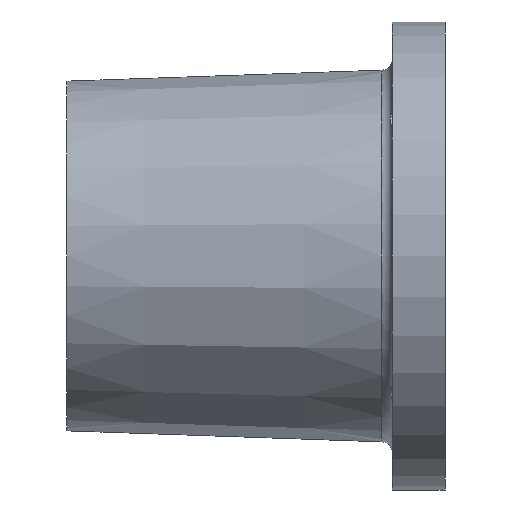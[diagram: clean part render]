
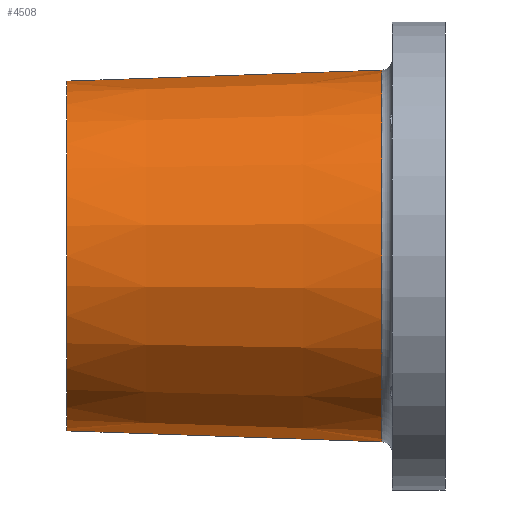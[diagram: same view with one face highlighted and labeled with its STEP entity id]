
A CAD part, left-side view. The second image highlights one B-rep face of the part: STEP entity #4508.
In plain terms, the highlighted conical face has half-angle 2 degrees and reference radius 71.141 mm.
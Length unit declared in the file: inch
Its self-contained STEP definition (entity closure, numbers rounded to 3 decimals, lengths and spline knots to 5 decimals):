
#111 = LINE ( 'NONE', #6007, #4490 ) ;
#229 = DIRECTION ( 'NONE',  ( 0., 0., -1. ) ) ;
#238 = ORIENTED_EDGE ( 'NONE', *, *, #6445, .T. ) ;
#850 = CARTESIAN_POINT ( 'NONE',  ( 0., 1.01772, 0. ) ) ;
#1435 = DIRECTION ( 'NONE',  ( 0., -1., 0. ) ) ;
#1443 = DIRECTION ( 'NONE',  ( 0., 0., -1. ) ) ;
#1678 = VECTOR ( 'NONE', #4334, 39.37008 ) ;
#1868 = CARTESIAN_POINT ( 'NONE',  ( 0., 6.06, 2.80185 ) ) ;
#2106 = DIRECTION ( 'NONE',  ( 0., -0.999, -0.035 ) ) ;
#2135 = CARTESIAN_POINT ( 'NONE',  ( 0., 6.06, 0. ) ) ;
#2413 = CARTESIAN_POINT ( 'NONE',  ( 0., 6.06, -2.80185 ) ) ;
#2464 = VERTEX_POINT ( 'NONE', #5310 ) ;
#2612 = AXIS2_PLACEMENT_3D ( 'NONE', #2135, #6086, #2702 ) ;
#2702 = DIRECTION ( 'NONE',  ( 0., 0., 1. ) ) ;
#2963 = VERTEX_POINT ( 'NONE', #2413 ) ;
#3037 = AXIS2_PLACEMENT_3D ( 'NONE', #850, #4811, #1443 ) ;
#3476 = AXIS2_PLACEMENT_3D ( 'NONE', #4245, #1435, #229 ) ;
#3769 = CARTESIAN_POINT ( 'NONE',  ( 0., 6.089, 2.80084 ) ) ;
#4020 = VERTEX_POINT ( 'NONE', #1868 ) ;
#4141 = CONICAL_SURFACE ( 'NONE', #3476, 2.80084, 0.035 ) ;
#4245 = CARTESIAN_POINT ( 'NONE',  ( 0., 6.089, 0. ) ) ;
#4334 = DIRECTION ( 'NONE',  ( 0., -0.999, 0.035 ) ) ;
#4490 = VECTOR ( 'NONE', #2106, 39.37008 ) ;
#4508 = ADVANCED_FACE ( 'NONE', ( #6033 ), #4141, .T. ) ;
#4811 = DIRECTION ( 'NONE',  ( 0., 1., 0. ) ) ;
#4839 = LINE ( 'NONE', #3769, #1678 ) ;
#4895 = VERTEX_POINT ( 'NONE', #4909 ) ;
#4909 = CARTESIAN_POINT ( 'NONE',  ( 0., 1.01772, 2.97793 ) ) ;
#5310 = CARTESIAN_POINT ( 'NONE',  ( 0., 1.01772, -2.97793 ) ) ;
#5336 = ORIENTED_EDGE ( 'NONE', *, *, #6423, .F. ) ;
#5341 = EDGE_LOOP ( 'NONE', ( #5336, #6272, #238, #7264 ) ) ;
#5871 = EDGE_CURVE ( 'NONE', #2464, #4895, #6212, .T. ) ;
#6007 = CARTESIAN_POINT ( 'NONE',  ( 0., 6.089, -2.80084 ) ) ;
#6017 = CIRCLE ( 'NONE', #2612, 2.80185 ) ;
#6033 = FACE_OUTER_BOUND ( 'NONE', #5341, .T. ) ;
#6086 = DIRECTION ( 'NONE',  ( 0., 1., 0. ) ) ;
#6212 = CIRCLE ( 'NONE', #3037, 2.97793 ) ;
#6272 = ORIENTED_EDGE ( 'NONE', *, *, #6456, .F. ) ;
#6423 = EDGE_CURVE ( 'NONE', #4020, #4895, #4839, .T. ) ;
#6445 = EDGE_CURVE ( 'NONE', #2963, #2464, #111, .T. ) ;
#6456 = EDGE_CURVE ( 'NONE', #2963, #4020, #6017, .T. ) ;
#7264 = ORIENTED_EDGE ( 'NONE', *, *, #5871, .T. ) ;
